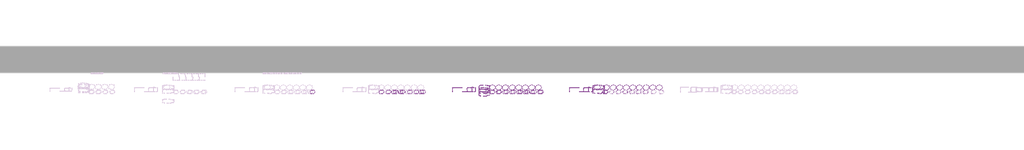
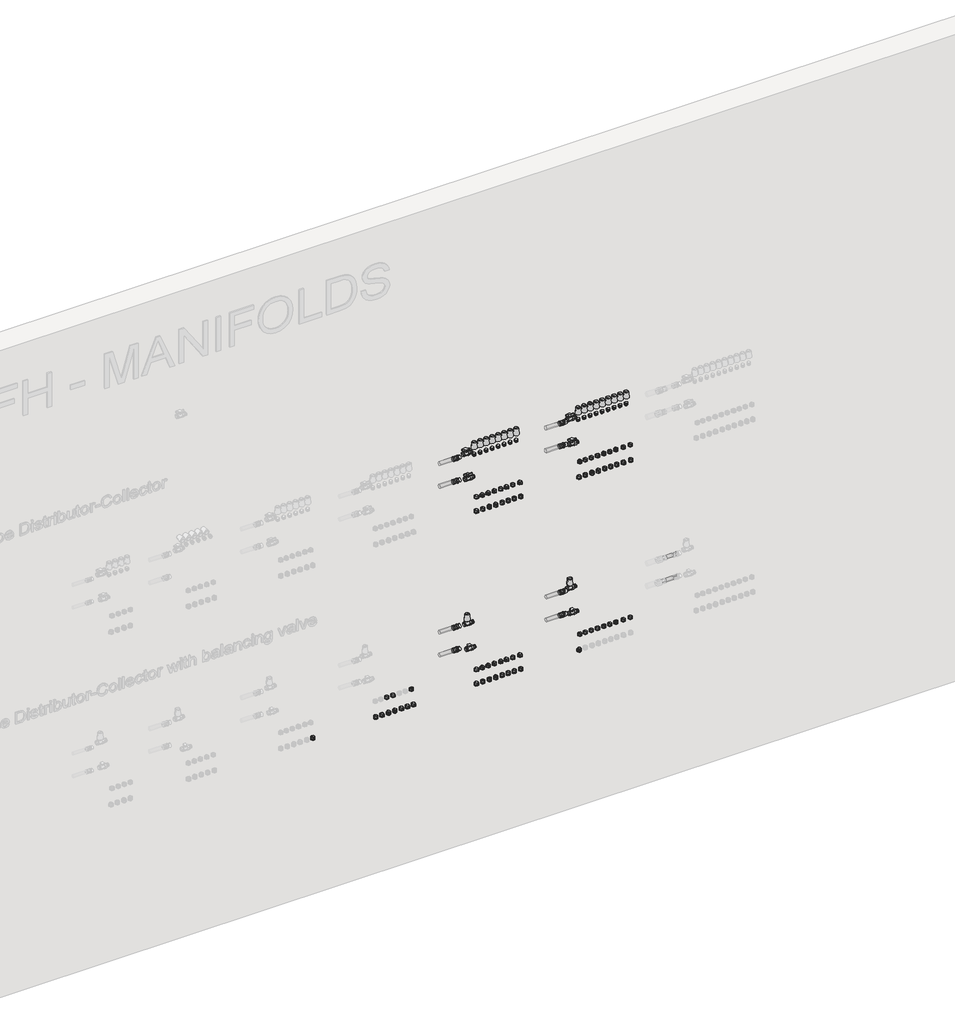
# One storey, part 3 of 26: 79 pipe fittings, 27 valves, 10 pipe segments.
"""IFC4 building model written with IfcOpenShell, lengths in millimetres."""

from ifc_helpers import new_model, si_unit, point, frame, frame_2d, origin, place, context, project, spatial, circle_curve, trimmed, segment, composite_curve, outline, extrude, transform, mapped, element, save
from components import pipe_fitting_a4cde8ab, pipe_fitting_d8af90f1, press_connection_with_male_thread_667abdb5, valve_0291d072, valve_f4025eb8, valve_fccc3399, valve_a3a22d59

model = new_model("IFC4")

# Units and contexts
model_context = context("Model", 3, world=origin())
ifc_project = project(units=[si_unit("LENGTHUNIT", "METRE", prefix="MILLI")], contexts=[model_context])

# Site, building, storey
site = spatial("IfcSite", under=ifc_project)
building = spatial("IfcBuilding", under=site)
storey = spatial("IfcBuildingStorey", under=building, Name="Superpipe UFH", Elevation=0.0)

# Pipe fittings
placement = place(None, origin())
pipe_fitting_shape = pipe_fitting_a4cde8ab(model_context)
element("IfcPipeFitting", 1, ObjectType="Compression Adapter 3/4\"FT : Superpipe Compression Adapter", at=placement, inside=storey, context=model_context, shape_type="MappedRepresentation", body=[
    mapped(pipe_fitting_shape, transform((5379.3069129, -1357.1498396, 3023.4111955), x_axis=(0.0, 0.0, -1.0), y_axis=(0.0, 1.0, 0.0), z_axis=(1.0, 0.0, 0.0))),
])
element("IfcPipeFitting", 2, ObjectType="Compression Adapter 3/4\"FT : Superpipe Compression Adapter", at=placement, inside=storey, context=model_context, shape_type="MappedRepresentation", body=[
    mapped(pipe_fitting_shape, transform((5431.9213282, -1357.1498396, 3023.4111955), x_axis=(0.0, 0.0, -1.0), y_axis=(0.0, 1.0, 0.0), z_axis=(1.0, 0.0, 0.0))),
])
element("IfcPipeFitting", 3, ObjectType="Compression Adapter 3/4\"FT : Superpipe Compression Adapter", at=placement, inside=storey, context=model_context, shape_type="MappedRepresentation", body=[
    mapped(pipe_fitting_shape, transform((5486.9213282, -1357.1498396, 3023.4111955), x_axis=(0.0, 0.0, -1.0), y_axis=(0.0, 1.0, 0.0), z_axis=(1.0, 0.0, 0.0))),
])
element("IfcPipeFitting", 4, ObjectType="Compression Adapter 3/4\"FT : Superpipe Compression Adapter", at=placement, inside=storey, context=model_context, shape_type="MappedRepresentation", body=[
    mapped(pipe_fitting_shape, transform((5539.4213282, -1357.1498396, 3023.4111955), x_axis=(0.0, 0.0, -1.0), y_axis=(0.0, 1.0, 0.0), z_axis=(1.0, 0.0, 0.0))),
])
element("IfcPipeFitting", 5, ObjectType="Compression Adapter 3/4\"FT : Superpipe Compression Adapter", at=placement, inside=storey, context=model_context, shape_type="MappedRepresentation", body=[
    mapped(pipe_fitting_shape, transform((5594.4213282, -1357.1498396, 3023.4111955), x_axis=(0.0, 0.0, -1.0), y_axis=(0.0, 1.0, 0.0), z_axis=(1.0, 0.0, 0.0))),
])
element("IfcPipeFitting", 6, ObjectType="Compression Adapter 3/4\"FT : Superpipe Compression Adapter", at=placement, inside=storey, context=model_context, shape_type="MappedRepresentation", body=[
    mapped(pipe_fitting_shape, transform((5644.4213282, -1357.1498396, 3023.4111955), x_axis=(0.0, 0.0, -1.0), y_axis=(0.0, 1.0, 0.0), z_axis=(1.0, 0.0, 0.0))),
])
element("IfcPipeFitting", 7, ObjectType="Compression Adapter 3/4\"FT : Superpipe Compression Adapter", at=placement, inside=storey, context=model_context, shape_type="MappedRepresentation", body=[
    mapped(pipe_fitting_shape, transform((5694.4213282, -1357.1498396, 3023.4111955), x_axis=(0.0, 0.0, -1.0), y_axis=(0.0, 1.0, 0.0), z_axis=(1.0, 0.0, 0.0))),
])
element("IfcPipeFitting", 8, ObjectType="Compression Adapter 3/4\"FT : Superpipe Compression Adapter", at=placement, inside=storey, context=model_context, shape_type="MappedRepresentation", body=[
    mapped(pipe_fitting_shape, transform((5749.1930101, -1357.1498396, 3023.1818509), x_axis=(0.0, 0.0, -1.0), y_axis=(0.0, 1.0, 0.0), z_axis=(1.0, 0.0, 0.0))),
])
element("IfcPipeFitting", 9, ObjectType="Compression Adapter 3/4\"FT : Superpipe Compression Adapter", at=placement, inside=storey, context=model_context, shape_type="MappedRepresentation", body=[
    mapped(pipe_fitting_shape, transform((6234.3069129, -1357.1498396, 3023.4111955), x_axis=(0.0, 0.0, -1.0), y_axis=(0.0, 1.0, 0.0), z_axis=(1.0, 0.0, 0.0))),
])
element("IfcPipeFitting", 10, ObjectType="Compression Adapter 3/4\"FT : Superpipe Compression Adapter", at=placement, inside=storey, context=model_context, shape_type="MappedRepresentation", body=[
    mapped(pipe_fitting_shape, transform((6286.9213282, -1357.1498396, 3023.4111955), x_axis=(0.0, 0.0, -1.0), y_axis=(0.0, 1.0, 0.0), z_axis=(1.0, 0.0, 0.0))),
])
element("IfcPipeFitting", 11, ObjectType="Compression Adapter 3/4\"FT : Superpipe Compression Adapter", at=placement, inside=storey, context=model_context, shape_type="MappedRepresentation", body=[
    mapped(pipe_fitting_shape, transform((6341.9213282, -1357.1498396, 3023.4111955), x_axis=(0.0, 0.0, -1.0), y_axis=(0.0, 1.0, 0.0), z_axis=(1.0, 0.0, 0.0))),
])
element("IfcPipeFitting", 12, ObjectType="Compression Adapter 3/4\"FT : Superpipe Compression Adapter", at=placement, inside=storey, context=model_context, shape_type="MappedRepresentation", body=[
    mapped(pipe_fitting_shape, transform((6394.4213282, -1357.1498396, 3023.4111955), x_axis=(0.0, 0.0, -1.0), y_axis=(0.0, 1.0, 0.0), z_axis=(1.0, 0.0, 0.0))),
])
element("IfcPipeFitting", 13, ObjectType="Compression Adapter 3/4\"FT : Superpipe Compression Adapter", at=placement, inside=storey, context=model_context, shape_type="MappedRepresentation", body=[
    mapped(pipe_fitting_shape, transform((6449.4213282, -1357.1498396, 3023.4111955), x_axis=(0.0, 0.0, -1.0), y_axis=(0.0, 1.0, 0.0), z_axis=(1.0, 0.0, 0.0))),
])
element("IfcPipeFitting", 14, ObjectType="Compression Adapter 3/4\"FT : Superpipe Compression Adapter", at=placement, inside=storey, context=model_context, shape_type="MappedRepresentation", body=[
    mapped(pipe_fitting_shape, transform((6499.4213282, -1357.1498396, 3023.4111955), x_axis=(0.0, 0.0, -1.0), y_axis=(0.0, 1.0, 0.0), z_axis=(1.0, 0.0, 0.0))),
])
element("IfcPipeFitting", 15, ObjectType="Compression Adapter 3/4\"FT : Superpipe Compression Adapter", at=placement, inside=storey, context=model_context, shape_type="MappedRepresentation", body=[
    mapped(pipe_fitting_shape, transform((6549.4213282, -1357.1498396, 3023.4111955), x_axis=(0.0, 0.0, -1.0), y_axis=(0.0, 1.0, 0.0), z_axis=(1.0, 0.0, 0.0))),
])
element("IfcPipeFitting", 16, ObjectType="Compression Adapter 3/4\"FT : Superpipe Compression Adapter", at=placement, inside=storey, context=model_context, shape_type="MappedRepresentation", body=[
    mapped(pipe_fitting_shape, transform((6604.1930101, -1357.1498396, 3023.1818509), x_axis=(0.0, 0.0, -1.0), y_axis=(0.0, 1.0, 0.0), z_axis=(1.0, 0.0, 0.0))),
])
element("IfcPipeFitting", 17, ObjectType="Compression Adapter 3/4\"FT : Superpipe Compression Adapter", at=placement, inside=storey, context=model_context, shape_type="MappedRepresentation", body=[
    mapped(pipe_fitting_shape, transform((6664.1930101, -1357.1498396, 3023.1818509), x_axis=(0.0, 0.0, -1.0), y_axis=(0.0, 1.0, 0.0), z_axis=(1.0, 0.0, 0.0))),
])
element("IfcPipeFitting", 18, ObjectType="Compression Adapter 3/4\"FT : Superpipe Compression Adapter", at=placement, inside=storey, context=model_context, shape_type="MappedRepresentation", body=[
    mapped(pipe_fitting_shape, transform((4014.4213282, -1357.1498396, 1503.4111955), x_axis=(0.0, 0.0, -1.0), y_axis=(0.0, 1.0, 0.0), z_axis=(1.0, 0.0, 0.0))),
])
element("IfcPipeFitting", 19, ObjectType="Compression Adapter 3/4\"FT : Superpipe Compression Adapter", at=placement, inside=storey, context=model_context, shape_type="MappedRepresentation", body=[
    mapped(pipe_fitting_shape, transform((4539.3069129, -1357.1498396, 1503.4111955), x_axis=(0.0, 0.0, -1.0), y_axis=(0.0, 1.0, 0.0), z_axis=(1.0, 0.0, 0.0))),
])
element("IfcPipeFitting", 20, ObjectType="Compression Adapter 3/4\"FT : Superpipe Compression Adapter", at=placement, inside=storey, context=model_context, shape_type="MappedRepresentation", body=[
    mapped(pipe_fitting_shape, transform((4591.9213282, -1357.1498396, 1503.4111955), x_axis=(0.0, 0.0, -1.0), y_axis=(0.0, 1.0, 0.0), z_axis=(1.0, 0.0, 0.0))),
])
element("IfcPipeFitting", 21, ObjectType="Compression Adapter 3/4\"FT : Superpipe Compression Adapter", at=placement, inside=storey, context=model_context, shape_type="MappedRepresentation", body=[
    mapped(pipe_fitting_shape, transform((4646.9213282, -1357.1498396, 1503.4111955), x_axis=(0.0, 0.0, -1.0), y_axis=(0.0, 1.0, 0.0), z_axis=(1.0, 0.0, 0.0))),
])
element("IfcPipeFitting", 22, ObjectType="Compression Adapter 3/4\"FT : Superpipe Compression Adapter", at=placement, inside=storey, context=model_context, shape_type="MappedRepresentation", body=[
    mapped(pipe_fitting_shape, transform((4699.4213282, -1357.1498396, 1503.4111955), x_axis=(0.0, 0.0, -1.0), y_axis=(0.0, 1.0, 0.0), z_axis=(1.0, 0.0, 0.0))),
])
element("IfcPipeFitting", 23, ObjectType="Compression Adapter 3/4\"FT : Superpipe Compression Adapter", at=placement, inside=storey, context=model_context, shape_type="MappedRepresentation", body=[
    mapped(pipe_fitting_shape, transform((4754.4213282, -1357.1498396, 1503.4111955), x_axis=(0.0, 0.0, -1.0), y_axis=(0.0, 1.0, 0.0), z_axis=(1.0, 0.0, 0.0))),
])
element("IfcPipeFitting", 24, ObjectType="Compression Adapter 3/4\"FT : Superpipe Compression Adapter", at=placement, inside=storey, context=model_context, shape_type="MappedRepresentation", body=[
    mapped(pipe_fitting_shape, transform((4804.4213282, -1357.1498396, 1503.4111955), x_axis=(0.0, 0.0, -1.0), y_axis=(0.0, 1.0, 0.0), z_axis=(1.0, 0.0, 0.0))),
])
element("IfcPipeFitting", 25, ObjectType="Compression Adapter 3/4\"FT : Superpipe Compression Adapter", at=placement, inside=storey, context=model_context, shape_type="MappedRepresentation", body=[
    mapped(pipe_fitting_shape, transform((4854.4213282, -1357.1498396, 1503.4111955), x_axis=(0.0, 0.0, -1.0), y_axis=(0.0, 1.0, 0.0), z_axis=(1.0, 0.0, 0.0))),
])
element("IfcPipeFitting", 26, ObjectType="Compression Adapter 3/4\"FT : Superpipe Compression Adapter", at=placement, inside=storey, context=model_context, shape_type="MappedRepresentation", body=[
    mapped(pipe_fitting_shape, transform((5379.3069129, -1357.1498396, 1503.4111955), x_axis=(0.0, 0.0, -1.0), y_axis=(0.0, 1.0, 0.0), z_axis=(1.0, 0.0, 0.0))),
])
element("IfcPipeFitting", 27, ObjectType="Compression Adapter 3/4\"FT : Superpipe Compression Adapter", at=placement, inside=storey, context=model_context, shape_type="MappedRepresentation", body=[
    mapped(pipe_fitting_shape, transform((5431.9213282, -1357.1498396, 1503.4111955), x_axis=(0.0, 0.0, -1.0), y_axis=(0.0, 1.0, 0.0), z_axis=(1.0, 0.0, 0.0))),
])
element("IfcPipeFitting", 28, ObjectType="Compression Adapter 3/4\"FT : Superpipe Compression Adapter", at=placement, inside=storey, context=model_context, shape_type="MappedRepresentation", body=[
    mapped(pipe_fitting_shape, transform((5486.9213282, -1357.1498396, 1503.4111955), x_axis=(0.0, 0.0, -1.0), y_axis=(0.0, 1.0, 0.0), z_axis=(1.0, 0.0, 0.0))),
])
element("IfcPipeFitting", 29, ObjectType="Compression Adapter 3/4\"FT : Superpipe Compression Adapter", at=placement, inside=storey, context=model_context, shape_type="MappedRepresentation", body=[
    mapped(pipe_fitting_shape, transform((5539.4213282, -1357.1498396, 1503.4111955), x_axis=(0.0, 0.0, -1.0), y_axis=(0.0, 1.0, 0.0), z_axis=(1.0, 0.0, 0.0))),
])
element("IfcPipeFitting", 30, ObjectType="Compression Adapter 3/4\"FT : Superpipe Compression Adapter", at=placement, inside=storey, context=model_context, shape_type="MappedRepresentation", body=[
    mapped(pipe_fitting_shape, transform((5594.4213282, -1357.1498396, 1503.4111955), x_axis=(0.0, 0.0, -1.0), y_axis=(0.0, 1.0, 0.0), z_axis=(1.0, 0.0, 0.0))),
])
element("IfcPipeFitting", 31, ObjectType="Compression Adapter 3/4\"FT : Superpipe Compression Adapter", at=placement, inside=storey, context=model_context, shape_type="MappedRepresentation", body=[
    mapped(pipe_fitting_shape, transform((5644.4213282, -1357.1498396, 1503.4111955), x_axis=(0.0, 0.0, -1.0), y_axis=(0.0, 1.0, 0.0), z_axis=(1.0, 0.0, 0.0))),
])
element("IfcPipeFitting", 32, ObjectType="Compression Adapter 3/4\"FT : Superpipe Compression Adapter", at=placement, inside=storey, context=model_context, shape_type="MappedRepresentation", body=[
    mapped(pipe_fitting_shape, transform((5694.4213282, -1357.1498396, 1503.4111955), x_axis=(0.0, 0.0, -1.0), y_axis=(0.0, 1.0, 0.0), z_axis=(1.0, 0.0, 0.0))),
])
element("IfcPipeFitting", 33, ObjectType="Compression Adapter 3/4\"FT : Superpipe Compression Adapter", at=placement, inside=storey, context=model_context, shape_type="MappedRepresentation", body=[
    mapped(pipe_fitting_shape, transform((5749.1930101, -1357.1498396, 1503.1818509), x_axis=(0.0, 0.0, -1.0), y_axis=(0.0, 1.0, 0.0), z_axis=(1.0, 0.0, 0.0))),
])
element("IfcPipeFitting", 34, ObjectType="Compression Adapter 3/4\"FT : Superpipe Compression Adapter", at=placement, inside=storey, context=model_context, shape_type="MappedRepresentation", body=[
    mapped(pipe_fitting_shape, transform((6234.3069129, -1357.1498396, 1503.4111955), x_axis=(0.0, 0.0, -1.0), y_axis=(0.0, 1.0, 0.0), z_axis=(1.0, 0.0, 0.0))),
])
pipe_fitting_2_shape = pipe_fitting_d8af90f1(model_context)
element("IfcPipeFitting", 35, ObjectType="Compression Adapter Euro : Superpipe Compression Adapter Euro", at=placement, inside=storey, context=model_context, shape_type="MappedRepresentation", body=[
    mapped(pipe_fitting_2_shape, transform((5629.2714485, -1357.1498396, 3146.6377388), x_axis=(0.0, 0.0, -1.0000000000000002), y_axis=(0.0, 1.0000000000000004, 0.0), z_axis=(1.0000000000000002, 0.0, 0.0))),
])
element("IfcPipeFitting", 36, ObjectType="Compression Adapter Euro : Superpipe Compression Adapter Euro", at=placement, inside=storey, context=model_context, shape_type="MappedRepresentation", body=[
    mapped(pipe_fitting_2_shape, transform((5580.5214485, -1357.1498396, 3146.6377388), x_axis=(0.0, 0.0, -1.0000000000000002), y_axis=(0.0, 1.0000000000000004, 0.0), z_axis=(1.0000000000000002, 0.0, 0.0))),
])
element("IfcPipeFitting", 37, ObjectType="Compression Adapter Euro : Superpipe Compression Adapter Euro", at=placement, inside=storey, context=model_context, shape_type="MappedRepresentation", body=[
    mapped(pipe_fitting_2_shape, transform((5379.7746458, -1357.1498396, 3146.6377388), x_axis=(0.0, 0.0, -1.0000000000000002), y_axis=(0.0, 1.0000000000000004, 0.0), z_axis=(1.0000000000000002, 0.0, 0.0))),
])
element("IfcPipeFitting", 38, ObjectType="Compression Adapter Euro : Superpipe Compression Adapter Euro", at=placement, inside=storey, context=model_context, shape_type="MappedRepresentation", body=[
    mapped(pipe_fitting_2_shape, transform((5426.0246458, -1357.1498396, 3146.6377388), x_axis=(0.0, 0.0, -1.0000000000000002), y_axis=(0.0, 1.0000000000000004, 0.0), z_axis=(1.0000000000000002, 0.0, 0.0))),
])
element("IfcPipeFitting", 39, ObjectType="Compression Adapter Euro : Superpipe Compression Adapter Euro", at=placement, inside=storey, context=model_context, shape_type="MappedRepresentation", body=[
    mapped(pipe_fitting_2_shape, transform((5476.0246458, -1357.1498396, 3146.6377388), x_axis=(0.0, 0.0, -1.0000000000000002), y_axis=(0.0, 1.0000000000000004, 0.0), z_axis=(1.0000000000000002, 0.0, 0.0))),
])
element("IfcPipeFitting", 40, ObjectType="Compression Adapter Euro : Superpipe Compression Adapter Euro", at=placement, inside=storey, context=model_context, shape_type="MappedRepresentation", body=[
    mapped(pipe_fitting_2_shape, transform((5528.2773011, -1357.1498396, 3146.6377388), x_axis=(0.0, 0.0, -1.0000000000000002), y_axis=(0.0, 1.0000000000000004, 0.0), z_axis=(1.0000000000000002, 0.0, 0.0))),
])
element("IfcPipeFitting", 41, ObjectType="Compression Adapter Euro : Superpipe Compression Adapter Euro", at=placement, inside=storey, context=model_context, shape_type="MappedRepresentation", body=[
    mapped(pipe_fitting_2_shape, transform((5681.7714485, -1357.1498396, 3146.6377388), x_axis=(0.0, 0.0, -1.0000000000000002), y_axis=(0.0, 1.0000000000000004, 0.0), z_axis=(1.0000000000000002, 0.0, 0.0))),
])
element("IfcPipeFitting", 42, ObjectType="Compression Adapter Euro : Superpipe Compression Adapter Euro", at=placement, inside=storey, context=model_context, shape_type="MappedRepresentation", body=[
    mapped(pipe_fitting_2_shape, transform((5741.7714485, -1357.1498396, 3146.6377388), x_axis=(0.0, 0.0, -1.0000000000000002), y_axis=(0.0, 1.0000000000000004, 0.0), z_axis=(1.0000000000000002, 0.0, 0.0))),
])
element("IfcPipeFitting", 43, ObjectType="Compression Adapter Euro : Superpipe Compression Adapter Euro", at=placement, inside=storey, context=model_context, shape_type="MappedRepresentation", body=[
    mapped(pipe_fitting_2_shape, transform((6488.7475597, -1357.1498396, 3156.651306), x_axis=(0.0, 0.0, -1.0000000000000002), y_axis=(0.0, 1.0000000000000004, 0.0), z_axis=(1.0000000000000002, 0.0, 0.0))),
])
element("IfcPipeFitting", 44, ObjectType="Compression Adapter Euro : Superpipe Compression Adapter Euro", at=placement, inside=storey, context=model_context, shape_type="MappedRepresentation", body=[
    mapped(pipe_fitting_2_shape, transform((6439.9975597, -1357.1498396, 3156.651306), x_axis=(0.0, 0.0, -1.0000000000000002), y_axis=(0.0, 1.0000000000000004, 0.0), z_axis=(1.0000000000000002, 0.0, 0.0))),
])
element("IfcPipeFitting", 45, ObjectType="Compression Adapter Euro : Superpipe Compression Adapter Euro", at=placement, inside=storey, context=model_context, shape_type="MappedRepresentation", body=[
    mapped(pipe_fitting_2_shape, transform((6239.250757, -1357.1498396, 3156.651306), x_axis=(0.0, 0.0, -1.0000000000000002), y_axis=(0.0, 1.0000000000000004, 0.0), z_axis=(1.0000000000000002, 0.0, 0.0))),
])
element("IfcPipeFitting", 46, ObjectType="Compression Adapter Euro : Superpipe Compression Adapter Euro", at=placement, inside=storey, context=model_context, shape_type="MappedRepresentation", body=[
    mapped(pipe_fitting_2_shape, transform((6285.500757, -1357.1498396, 3156.651306), x_axis=(0.0, 0.0, -1.0000000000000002), y_axis=(0.0, 1.0000000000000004, 0.0), z_axis=(1.0000000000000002, 0.0, 0.0))),
])
element("IfcPipeFitting", 47, ObjectType="Compression Adapter Euro : Superpipe Compression Adapter Euro", at=placement, inside=storey, context=model_context, shape_type="MappedRepresentation", body=[
    mapped(pipe_fitting_2_shape, transform((6335.500757, -1357.1498396, 3156.651306), x_axis=(0.0, 0.0, -1.0000000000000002), y_axis=(0.0, 1.0000000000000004, 0.0), z_axis=(1.0000000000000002, 0.0, 0.0))),
])
element("IfcPipeFitting", 48, ObjectType="Compression Adapter Euro : Superpipe Compression Adapter Euro", at=placement, inside=storey, context=model_context, shape_type="MappedRepresentation", body=[
    mapped(pipe_fitting_2_shape, transform((6387.7534124, -1357.1498396, 3156.651306), x_axis=(0.0, 0.0, -1.0000000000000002), y_axis=(0.0, 1.0000000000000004, 0.0), z_axis=(1.0000000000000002, 0.0, 0.0))),
])
element("IfcPipeFitting", 49, ObjectType="Compression Adapter Euro : Superpipe Compression Adapter Euro", at=placement, inside=storey, context=model_context, shape_type="MappedRepresentation", body=[
    mapped(pipe_fitting_2_shape, transform((6541.2475597, -1357.1498396, 3156.651306), x_axis=(0.0, 0.0, -1.0000000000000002), y_axis=(0.0, 1.0000000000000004, 0.0), z_axis=(1.0000000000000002, 0.0, 0.0))),
])
element("IfcPipeFitting", 50, ObjectType="Compression Adapter Euro : Superpipe Compression Adapter Euro", at=placement, inside=storey, context=model_context, shape_type="MappedRepresentation", body=[
    mapped(pipe_fitting_2_shape, transform((6601.2475597, -1357.1498396, 3156.651306), x_axis=(0.0, 0.0, -1.0000000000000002), y_axis=(0.0, 1.0000000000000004, 0.0), z_axis=(1.0000000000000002, 0.0, 0.0))),
])
element("IfcPipeFitting", 51, ObjectType="Compression Adapter Euro : Superpipe Compression Adapter Euro", at=placement, inside=storey, context=model_context, shape_type="MappedRepresentation", body=[
    mapped(pipe_fitting_2_shape, transform((6661.2475597, -1357.1498396, 3156.651306), x_axis=(0.0, 0.0, -1.0000000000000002), y_axis=(0.0, 1.0000000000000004, 0.0), z_axis=(1.0000000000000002, 0.0, 0.0))),
])
element("IfcPipeFitting", 52, ObjectType="Compression Adapter Euro : Superpipe Compression Adapter Euro", at=placement, inside=storey, context=model_context, shape_type="MappedRepresentation", body=[
    mapped(pipe_fitting_2_shape, transform((4631.5357584, -1357.1498396, 1642.7554532), x_axis=(0.0, 0.0, -1.0000000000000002), y_axis=(0.0, 1.0000000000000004, 0.0), z_axis=(1.0000000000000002, 0.0, 0.0))),
])
element("IfcPipeFitting", 53, ObjectType="Compression Adapter Euro : Superpipe Compression Adapter Euro", at=placement, inside=storey, context=model_context, shape_type="MappedRepresentation", body=[
    mapped(pipe_fitting_2_shape, transform((4683.7884138, -1357.1498396, 1642.7554532), x_axis=(0.0, 0.0, -1.0000000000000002), y_axis=(0.0, 1.0000000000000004, 0.0), z_axis=(1.0000000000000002, 0.0, 0.0))),
])
element("IfcPipeFitting", 54, ObjectType="Compression Adapter Euro : Superpipe Compression Adapter Euro", at=placement, inside=storey, context=model_context, shape_type="MappedRepresentation", body=[
    mapped(pipe_fitting_2_shape, transform((4837.2825611, -1357.1498396, 1642.7554532), x_axis=(0.0, 0.0, -1.0000000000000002), y_axis=(0.0, 1.0000000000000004, 0.0), z_axis=(1.0000000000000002, 0.0, 0.0))),
])
element("IfcPipeFitting", 55, ObjectType="Compression Adapter Euro : Superpipe Compression Adapter Euro", at=placement, inside=storey, context=model_context, shape_type="MappedRepresentation", body=[
    mapped(pipe_fitting_2_shape, transform((5629.2714485, -1357.1498396, 1626.6377388), x_axis=(0.0, 0.0, -1.0000000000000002), y_axis=(0.0, 1.0000000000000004, 0.0), z_axis=(1.0000000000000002, 0.0, 0.0))),
])
element("IfcPipeFitting", 56, ObjectType="Compression Adapter Euro : Superpipe Compression Adapter Euro", at=placement, inside=storey, context=model_context, shape_type="MappedRepresentation", body=[
    mapped(pipe_fitting_2_shape, transform((5580.5214485, -1357.1498396, 1626.6377388), x_axis=(0.0, 0.0, -1.0000000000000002), y_axis=(0.0, 1.0000000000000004, 0.0), z_axis=(1.0000000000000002, 0.0, 0.0))),
])
element("IfcPipeFitting", 57, ObjectType="Compression Adapter Euro : Superpipe Compression Adapter Euro", at=placement, inside=storey, context=model_context, shape_type="MappedRepresentation", body=[
    mapped(pipe_fitting_2_shape, transform((5379.7746458, -1357.1498396, 1626.6377388), x_axis=(0.0, 0.0, -1.0000000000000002), y_axis=(0.0, 1.0000000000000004, 0.0), z_axis=(1.0000000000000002, 0.0, 0.0))),
])
element("IfcPipeFitting", 58, ObjectType="Compression Adapter Euro : Superpipe Compression Adapter Euro", at=placement, inside=storey, context=model_context, shape_type="MappedRepresentation", body=[
    mapped(pipe_fitting_2_shape, transform((5426.0246458, -1357.1498396, 1626.6377388), x_axis=(0.0, 0.0, -1.0000000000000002), y_axis=(0.0, 1.0000000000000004, 0.0), z_axis=(1.0000000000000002, 0.0, 0.0))),
])
element("IfcPipeFitting", 59, ObjectType="Compression Adapter Euro : Superpipe Compression Adapter Euro", at=placement, inside=storey, context=model_context, shape_type="MappedRepresentation", body=[
    mapped(pipe_fitting_2_shape, transform((5476.0246458, -1357.1498396, 1626.6377388), x_axis=(0.0, 0.0, -1.0000000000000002), y_axis=(0.0, 1.0000000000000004, 0.0), z_axis=(1.0000000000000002, 0.0, 0.0))),
])
element("IfcPipeFitting", 60, ObjectType="Compression Adapter Euro : Superpipe Compression Adapter Euro", at=placement, inside=storey, context=model_context, shape_type="MappedRepresentation", body=[
    mapped(pipe_fitting_2_shape, transform((5528.2773011, -1357.1498396, 1626.6377388), x_axis=(0.0, 0.0, -1.0000000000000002), y_axis=(0.0, 1.0000000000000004, 0.0), z_axis=(1.0000000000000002, 0.0, 0.0))),
])
element("IfcPipeFitting", 61, ObjectType="Compression Adapter Euro : Superpipe Compression Adapter Euro", at=placement, inside=storey, context=model_context, shape_type="MappedRepresentation", body=[
    mapped(pipe_fitting_2_shape, transform((5681.7714485, -1357.1498396, 1626.6377388), x_axis=(0.0, 0.0, -1.0000000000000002), y_axis=(0.0, 1.0000000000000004, 0.0), z_axis=(1.0000000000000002, 0.0, 0.0))),
])
element("IfcPipeFitting", 62, ObjectType="Compression Adapter Euro : Superpipe Compression Adapter Euro", at=placement, inside=storey, context=model_context, shape_type="MappedRepresentation", body=[
    mapped(pipe_fitting_2_shape, transform((5741.7714485, -1357.1498396, 1626.6377388), x_axis=(0.0, 0.0, -1.0000000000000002), y_axis=(0.0, 1.0000000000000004, 0.0), z_axis=(1.0000000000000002, 0.0, 0.0))),
])
element("IfcPipeFitting", 63, ObjectType="Compression Adapter Euro : Superpipe Compression Adapter Euro", at=placement, inside=storey, context=model_context, shape_type="MappedRepresentation", body=[
    mapped(pipe_fitting_2_shape, transform((6488.7475597, -1357.1498396, 1636.651306), x_axis=(0.0, 0.0, -1.0000000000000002), y_axis=(0.0, 1.0000000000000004, 0.0), z_axis=(1.0000000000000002, 0.0, 0.0))),
])
element("IfcPipeFitting", 64, ObjectType="Compression Adapter Euro : Superpipe Compression Adapter Euro", at=placement, inside=storey, context=model_context, shape_type="MappedRepresentation", body=[
    mapped(pipe_fitting_2_shape, transform((6439.9975597, -1357.1498396, 1636.651306), x_axis=(0.0, 0.0, -1.0000000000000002), y_axis=(0.0, 1.0000000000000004, 0.0), z_axis=(1.0000000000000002, 0.0, 0.0))),
])
element("IfcPipeFitting", 65, ObjectType="Compression Adapter Euro : Superpipe Compression Adapter Euro", at=placement, inside=storey, context=model_context, shape_type="MappedRepresentation", body=[
    mapped(pipe_fitting_2_shape, transform((6239.250757, -1357.1498396, 1636.651306), x_axis=(0.0, 0.0, -1.0000000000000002), y_axis=(0.0, 1.0000000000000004, 0.0), z_axis=(1.0000000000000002, 0.0, 0.0))),
])
element("IfcPipeFitting", 66, ObjectType="Compression Adapter Euro : Superpipe Compression Adapter Euro", at=placement, inside=storey, context=model_context, shape_type="MappedRepresentation", body=[
    mapped(pipe_fitting_2_shape, transform((6285.500757, -1357.1498396, 1636.651306), x_axis=(0.0, 0.0, -1.0000000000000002), y_axis=(0.0, 1.0000000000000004, 0.0), z_axis=(1.0000000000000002, 0.0, 0.0))),
])
element("IfcPipeFitting", 67, ObjectType="Compression Adapter Euro : Superpipe Compression Adapter Euro", at=placement, inside=storey, context=model_context, shape_type="MappedRepresentation", body=[
    mapped(pipe_fitting_2_shape, transform((6335.500757, -1357.1498396, 1636.651306), x_axis=(0.0, 0.0, -1.0000000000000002), y_axis=(0.0, 1.0000000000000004, 0.0), z_axis=(1.0000000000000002, 0.0, 0.0))),
])
element("IfcPipeFitting", 68, ObjectType="Compression Adapter Euro : Superpipe Compression Adapter Euro", at=placement, inside=storey, context=model_context, shape_type="MappedRepresentation", body=[
    mapped(pipe_fitting_2_shape, transform((6387.7534124, -1357.1498396, 1636.651306), x_axis=(0.0, 0.0, -1.0000000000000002), y_axis=(0.0, 1.0000000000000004, 0.0), z_axis=(1.0000000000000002, 0.0, 0.0))),
])
element("IfcPipeFitting", 69, ObjectType="Compression Adapter Euro : Superpipe Compression Adapter Euro", at=placement, inside=storey, context=model_context, shape_type="MappedRepresentation", body=[
    mapped(pipe_fitting_2_shape, transform((6541.2475597, -1357.1498396, 1636.651306), x_axis=(0.0, 0.0, -1.0000000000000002), y_axis=(0.0, 1.0000000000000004, 0.0), z_axis=(1.0000000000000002, 0.0, 0.0))),
])
element("IfcPipeFitting", 70, ObjectType="Compression Adapter Euro : Superpipe Compression Adapter Euro", at=placement, inside=storey, context=model_context, shape_type="MappedRepresentation", body=[
    mapped(pipe_fitting_2_shape, transform((6601.2475597, -1357.1498396, 1636.651306), x_axis=(0.0, 0.0, -1.0000000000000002), y_axis=(0.0, 1.0000000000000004, 0.0), z_axis=(1.0000000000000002, 0.0, 0.0))),
])
element("IfcPipeFitting", 71, ObjectType="Compression Adapter Euro : Superpipe Compression Adapter Euro", at=placement, inside=storey, context=model_context, shape_type="MappedRepresentation", body=[
    mapped(pipe_fitting_2_shape, transform((6661.2475597, -1357.1498396, 1636.651306), x_axis=(0.0, 0.0, -1.0000000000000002), y_axis=(0.0, 1.0000000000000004, 0.0), z_axis=(1.0000000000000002, 0.0, 0.0))),
])
press_connection_with_male_thread_shape = press_connection_with_male_thread_667abdb5(model_context)
element("IfcPipeFitting", 72, ObjectType="Press Connection with Male Thread : Superpipe Press Connection - 32x1\" MT", at=placement, inside=storey, context=model_context, shape_type="MappedRepresentation", body=[
    mapped(press_connection_with_male_thread_shape, transform((5188.6757495, -1341.3459802, 3524.1931874), x_axis=(1.0, 0.0, 0.0), y_axis=(0.0, 1.0, 0.0), z_axis=(0.0, 0.0, 1.0))),
])
element("IfcPipeFitting", 73, ObjectType="Press Connection with Male Thread : Superpipe Press Connection - 32x1\" MT", at=placement, inside=storey, context=model_context, shape_type="MappedRepresentation", body=[
    mapped(press_connection_with_male_thread_shape, transform((5188.6757495, -1341.3459802, 3323.5169288), x_axis=(1.0, 0.0, 0.0), y_axis=(0.0, 1.0, 0.0), z_axis=(0.0, 0.0, 1.0))),
])
element("IfcPipeFitting", 74, ObjectType="Press Connection with Male Thread : Superpipe Press Connection - 32x1\" MT", at=placement, inside=storey, context=model_context, shape_type="MappedRepresentation", body=[
    mapped(press_connection_with_male_thread_shape, transform((5188.6757495, -1341.3459802, 2038.4293979), x_axis=(1.0, 0.0, 0.0), y_axis=(0.0, 1.0, 0.0), z_axis=(0.0, 0.0, 1.0))),
])
element("IfcPipeFitting", 75, ObjectType="Press Connection with Male Thread : Superpipe Press Connection - 32x1\" MT", at=placement, inside=storey, context=model_context, shape_type="MappedRepresentation", body=[
    mapped(press_connection_with_male_thread_shape, transform((5188.6757495, -1341.3459802, 1837.7531393), x_axis=(1.0, 0.0, 0.0), y_axis=(0.0, 1.0, 0.0), z_axis=(0.0, 0.0, 1.0))),
])
element("IfcPipeFitting", 76, ObjectType="Press Connection with Male Thread : Superpipe Press Connection - 32x1\" MT", at=placement, inside=storey, context=model_context, shape_type="MappedRepresentation", body=[
    mapped(press_connection_with_male_thread_shape, transform((6074.0794103, -1341.3459802, 1836.0747953), x_axis=(1.0, 0.0, 0.0), y_axis=(0.0, 1.0, 0.0), z_axis=(0.0, 0.0, 1.0))),
])
element("IfcPipeFitting", 77, ObjectType="Press Connection with Male Thread : Superpipe Press Connection - 32x1\" MT", at=placement, inside=storey, context=model_context, shape_type="MappedRepresentation", body=[
    mapped(press_connection_with_male_thread_shape, transform((6074.0794103, -1341.3459802, 2038.4293979), x_axis=(1.0, 0.0, 0.0), y_axis=(0.0, 1.0, 0.0), z_axis=(0.0, 0.0, 1.0))),
])
element("IfcPipeFitting", 78, ObjectType="Press Connection with Male Thread : Superpipe Press Connection - 32x1\" MT", at=placement, inside=storey, context=model_context, shape_type="MappedRepresentation", body=[
    mapped(press_connection_with_male_thread_shape, transform((6074.0794103, -1341.3459802, 3326.1332777), x_axis=(1.0, 0.0, 0.0), y_axis=(0.0, 1.0, 0.0), z_axis=(0.0, 0.0, 1.0))),
])
element("IfcPipeFitting", 79, ObjectType="Press Connection with Male Thread : Superpipe Press Connection - 32x1\" MT", at=placement, inside=storey, context=model_context, shape_type="MappedRepresentation", body=[
    mapped(press_connection_with_male_thread_shape, transform((6074.0794103, -1341.3459802, 3526.8095364), x_axis=(1.0, 0.0, 0.0), y_axis=(0.0, 1.0, 0.0), z_axis=(0.0, 0.0, 1.0))),
])

# Pipe segments
element("IfcPipeSegment", 80, ObjectType="Superpipe 2+ coil", at=placement, inside=storey, context=model_context, shape_type="SweptSolid", body=[
    extrude(outline(composite_curve([segment(trimmed(circle_curve(frame_2d((-1341.3459802, 3524.1931874)), 16.0), [point((-1325.3459802, 3524.1931874))], [point((-1341.3459802, 3508.1931874))], False, "CARTESIAN"), True, "CONTINUOUS"), segment(trimmed(circle_curve(frame_2d((-1341.3459802, 3524.1931874)), 16.0), [point((-1341.3459802, 3508.1931874))], [point((-1357.3459802, 3524.1931874))], False, "CARTESIAN"), True, "CONTINUOUS"), segment(trimmed(circle_curve(frame_2d((-1341.3459802, 3524.1931874)), 16.0), [point((-1357.3459802, 3524.1931874))], [point((-1341.3459802, 3540.1931874))], False, "CARTESIAN"), True, "CONTINUOUS"), segment(trimmed(circle_curve(frame_2d((-1341.3459802, 3524.1931874)), 16.0), [point((-1341.3459802, 3540.1931874))], [point((-1325.3459802, 3524.1931874))], False, "CARTESIAN"), True, "CONTINUOUS")], self_intersect=False)), frame((5080.4154208, 0.0, 0.0), z_axis=(1.0, 0.0, 0.0), x_axis=(0.0, 1.0, 0.0)), (0.0, 0.0, 1.0), 142.2603287),
])
element("IfcPipeSegment", 81, ObjectType="Superpipe 2+ coil", at=placement, inside=storey, context=model_context, shape_type="SweptSolid", body=[
    extrude(outline(composite_curve([segment(trimmed(circle_curve(frame_2d((-1341.3459802, 3323.5169288)), 16.0), [point((-1325.3459802, 3323.5169288))], [point((-1341.3459802, 3307.5169288))], False, "CARTESIAN"), True, "CONTINUOUS"), segment(trimmed(circle_curve(frame_2d((-1341.3459802, 3323.5169288)), 16.0), [point((-1341.3459802, 3307.5169288))], [point((-1357.3459802, 3323.5169288))], False, "CARTESIAN"), True, "CONTINUOUS"), segment(trimmed(circle_curve(frame_2d((-1341.3459802, 3323.5169288)), 16.0), [point((-1357.3459802, 3323.5169288))], [point((-1341.3459802, 3339.5169288))], False, "CARTESIAN"), True, "CONTINUOUS"), segment(trimmed(circle_curve(frame_2d((-1341.3459802, 3323.5169288)), 16.0), [point((-1341.3459802, 3339.5169288))], [point((-1325.3459802, 3323.5169288))], False, "CARTESIAN"), True, "CONTINUOUS")], self_intersect=False)), frame((5080.4154208, 0.0, 0.0), z_axis=(1.0, 0.0, 0.0), x_axis=(0.0, 1.0, 0.0)), (0.0, 0.0, 1.0), 142.2603287),
])
element("IfcPipeSegment", 82, ObjectType="Superpipe 2+ coil", at=placement, inside=storey, context=model_context, shape_type="SweptSolid", body=[
    extrude(outline(composite_curve([segment(trimmed(circle_curve(frame_2d((-1341.3459802, 2038.4293979)), 16.0), [point((-1325.3459802, 2038.4293979))], [point((-1341.3459802, 2022.4293979))], False, "CARTESIAN"), True, "CONTINUOUS"), segment(trimmed(circle_curve(frame_2d((-1341.3459802, 2038.4293979)), 16.0), [point((-1341.3459802, 2022.4293979))], [point((-1357.3459802, 2038.4293979))], False, "CARTESIAN"), True, "CONTINUOUS"), segment(trimmed(circle_curve(frame_2d((-1341.3459802, 2038.4293979)), 16.0), [point((-1357.3459802, 2038.4293979))], [point((-1341.3459802, 2054.4293979))], False, "CARTESIAN"), True, "CONTINUOUS"), segment(trimmed(circle_curve(frame_2d((-1341.3459802, 2038.4293979)), 16.0), [point((-1341.3459802, 2054.4293979))], [point((-1325.3459802, 2038.4293979))], False, "CARTESIAN"), True, "CONTINUOUS")], self_intersect=False)), frame((5080.4154208, 0.0, 0.0), z_axis=(1.0, 0.0, 0.0), x_axis=(0.0, 1.0, 0.0)), (0.0, 0.0, 1.0), 142.2603287),
])
element("IfcPipeSegment", 83, ObjectType="Superpipe 2+ coil", at=placement, inside=storey, context=model_context, shape_type="SweptSolid", body=[
    extrude(outline(composite_curve([segment(trimmed(circle_curve(frame_2d((-1341.3459802, 1837.7531393)), 16.0), [point((-1325.3459802, 1837.7531393))], [point((-1341.3459802, 1821.7531393))], False, "CARTESIAN"), True, "CONTINUOUS"), segment(trimmed(circle_curve(frame_2d((-1341.3459802, 1837.7531393)), 16.0), [point((-1341.3459802, 1821.7531393))], [point((-1357.3459802, 1837.7531393))], False, "CARTESIAN"), True, "CONTINUOUS"), segment(trimmed(circle_curve(frame_2d((-1341.3459802, 1837.7531393)), 16.0), [point((-1357.3459802, 1837.7531393))], [point((-1341.3459802, 1853.7531393))], False, "CARTESIAN"), True, "CONTINUOUS"), segment(trimmed(circle_curve(frame_2d((-1341.3459802, 1837.7531393)), 16.0), [point((-1341.3459802, 1853.7531393))], [point((-1325.3459802, 1837.7531393))], False, "CARTESIAN"), True, "CONTINUOUS")], self_intersect=False)), frame((5080.4154208, 0.0, 0.0), z_axis=(1.0, 0.0, 0.0), x_axis=(0.0, 1.0, 0.0)), (0.0, 0.0, 1.0), 142.2603287),
])
element("IfcPipeSegment", 84, ObjectType="Superpipe 2+ coil", at=placement, inside=storey, context=model_context, shape_type="SweptSolid", body=[
    extrude(outline(composite_curve([segment(trimmed(circle_curve(frame_2d((-1341.3459802, 1836.0747953)), 16.0), [point((-1325.3459802, 1836.0747953))], [point((-1341.3459802, 1820.0747953))], False, "CARTESIAN"), True, "CONTINUOUS"), segment(trimmed(circle_curve(frame_2d((-1341.3459802, 1836.0747953)), 16.0), [point((-1341.3459802, 1820.0747953))], [point((-1357.3459802, 1836.0747953))], False, "CARTESIAN"), True, "CONTINUOUS"), segment(trimmed(circle_curve(frame_2d((-1341.3459802, 1836.0747953)), 16.0), [point((-1357.3459802, 1836.0747953))], [point((-1341.3459802, 1852.0747953))], False, "CARTESIAN"), True, "CONTINUOUS"), segment(trimmed(circle_curve(frame_2d((-1341.3459802, 1836.0747953)), 16.0), [point((-1341.3459802, 1852.0747953))], [point((-1325.3459802, 1836.0747953))], False, "CARTESIAN"), True, "CONTINUOUS")], self_intersect=False)), frame((5968.2240722, 0.0, 0.0), z_axis=(1.0, 0.0, 0.0), x_axis=(0.0, 1.0, 0.0)), (0.0, 0.0, 1.0), 139.8553382),
])
element("IfcPipeSegment", 85, ObjectType="Superpipe 2+ coil", at=placement, inside=storey, context=model_context, shape_type="SweptSolid", body=[
    extrude(outline(composite_curve([segment(trimmed(circle_curve(frame_2d((-1341.3459802, 2038.4293979)), 16.0), [point((-1325.3459802, 2038.4293979))], [point((-1341.3459802, 2022.4293979))], False, "CARTESIAN"), True, "CONTINUOUS"), segment(trimmed(circle_curve(frame_2d((-1341.3459802, 2038.4293979)), 16.0), [point((-1341.3459802, 2022.4293979))], [point((-1357.3459802, 2038.4293979))], False, "CARTESIAN"), True, "CONTINUOUS"), segment(trimmed(circle_curve(frame_2d((-1341.3459802, 2038.4293979)), 16.0), [point((-1357.3459802, 2038.4293979))], [point((-1341.3459802, 2054.4293979))], False, "CARTESIAN"), True, "CONTINUOUS"), segment(trimmed(circle_curve(frame_2d((-1341.3459802, 2038.4293979)), 16.0), [point((-1341.3459802, 2054.4293979))], [point((-1325.3459802, 2038.4293979))], False, "CARTESIAN"), True, "CONTINUOUS")], self_intersect=False)), frame((5968.2240722, 0.0, 0.0), z_axis=(1.0, 0.0, 0.0), x_axis=(0.0, 1.0, 0.0)), (0.0, 0.0, 1.0), 139.8553382),
])
element("IfcPipeSegment", 86, ObjectType="Superpipe 2+ coil", at=placement, inside=storey, context=model_context, shape_type="SweptSolid", body=[
    extrude(outline(composite_curve([segment(trimmed(circle_curve(frame_2d((-1341.3459802, 3326.1332777)), 16.0), [point((-1325.3459802, 3326.1332777))], [point((-1341.3459802, 3310.1332777))], False, "CARTESIAN"), True, "CONTINUOUS"), segment(trimmed(circle_curve(frame_2d((-1341.3459802, 3326.1332777)), 16.0), [point((-1341.3459802, 3310.1332777))], [point((-1357.3459802, 3326.1332777))], False, "CARTESIAN"), True, "CONTINUOUS"), segment(trimmed(circle_curve(frame_2d((-1341.3459802, 3326.1332777)), 16.0), [point((-1357.3459802, 3326.1332777))], [point((-1341.3459802, 3342.1332777))], False, "CARTESIAN"), True, "CONTINUOUS"), segment(trimmed(circle_curve(frame_2d((-1341.3459802, 3326.1332777)), 16.0), [point((-1341.3459802, 3342.1332777))], [point((-1325.3459802, 3326.1332777))], False, "CARTESIAN"), True, "CONTINUOUS")], self_intersect=False)), frame((5965.8190816, 0.0, 0.0), z_axis=(1.0, 0.0, 0.0), x_axis=(0.0, 1.0, 0.0)), (0.0, 0.0, 1.0), 142.2603287),
])
element("IfcPipeSegment", 87, ObjectType="Superpipe 2+ coil", at=placement, inside=storey, context=model_context, shape_type="SweptSolid", body=[
    extrude(outline(composite_curve([segment(trimmed(circle_curve(frame_2d((-1341.3459802, 3526.8095364)), 16.0), [point((-1325.3459802, 3526.8095364))], [point((-1341.3459802, 3510.8095364))], False, "CARTESIAN"), True, "CONTINUOUS"), segment(trimmed(circle_curve(frame_2d((-1341.3459802, 3526.8095364)), 16.0), [point((-1341.3459802, 3510.8095364))], [point((-1357.3459802, 3526.8095364))], False, "CARTESIAN"), True, "CONTINUOUS"), segment(trimmed(circle_curve(frame_2d((-1341.3459802, 3526.8095364)), 16.0), [point((-1357.3459802, 3526.8095364))], [point((-1341.3459802, 3542.8095364))], False, "CARTESIAN"), True, "CONTINUOUS"), segment(trimmed(circle_curve(frame_2d((-1341.3459802, 3526.8095364)), 16.0), [point((-1341.3459802, 3542.8095364))], [point((-1325.3459802, 3526.8095364))], False, "CARTESIAN"), True, "CONTINUOUS")], self_intersect=False)), frame((5965.8190816, 0.0, 0.0), z_axis=(1.0, 0.0, 0.0), x_axis=(0.0, 1.0, 0.0)), (0.0, 0.0, 1.0), 142.2603287),
])
element("IfcPipeSegment", 88, ObjectType="Superpipe 2+ coil", at=placement, inside=storey, context=model_context, shape_type="SweptSolid", body=[
    extrude(outline(composite_curve([segment(trimmed(circle_curve(frame_2d((0.0, 16.0)), 16.0), [point((-16.0, 16.0))], [point((0.0, 32.0))], False, "CARTESIAN"), True, "CONTINUOUS"), segment(trimmed(circle_curve(frame_2d((0.0, 16.0)), 16.0), [point((0.0, 32.0))], [point((16.0, 16.0))], False, "CARTESIAN"), True, "CONTINUOUS"), segment(trimmed(circle_curve(frame_2d((0.0, 16.0)), 16.0), [point((16.0, 16.0))], [point((0.0, 0.0))], False, "CARTESIAN"), True, "CONTINUOUS"), segment(trimmed(circle_curve(frame_2d((0.0, 16.0)), 16.0), [point((0.0, 0.0))], [point((-16.0, 16.0))], False, "CARTESIAN"), True, "CONTINUOUS")], self_intersect=False)), frame((7055.0162689, -1341.3459802, 2022.4293979), z_axis=(-0.9999999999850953, 5.4598177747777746e-06, 0.0), x_axis=(-5.4598177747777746e-06, -0.9999999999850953, 0.0)), (0.0, 0.0, 1.0), 123.2603287),
])
element("IfcPipeSegment", 89, ObjectType="Superpipe 2+ coil", at=placement, inside=storey, context=model_context, shape_type="SweptSolid", body=[
    extrude(outline(composite_curve([segment(trimmed(circle_curve(frame_2d((0.0, 16.0)), 16.0), [point((-16.0, 16.0))], [point((0.0, 32.0))], False, "CARTESIAN"), True, "CONTINUOUS"), segment(trimmed(circle_curve(frame_2d((0.0, 16.0)), 16.0), [point((0.0, 32.0))], [point((16.0, 16.0))], False, "CARTESIAN"), True, "CONTINUOUS"), segment(trimmed(circle_curve(frame_2d((0.0, 16.0)), 16.0), [point((16.0, 16.0))], [point((0.0, 0.0))], False, "CARTESIAN"), True, "CONTINUOUS"), segment(trimmed(circle_curve(frame_2d((0.0, 16.0)), 16.0), [point((0.0, 0.0))], [point((-16.0, 16.0))], False, "CARTESIAN"), True, "CONTINUOUS")], self_intersect=False)), frame((7059.9601006, -1341.3459802, 1821.7531393), z_axis=(-0.9999999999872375, 5.052236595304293e-06, 0.0), x_axis=(-5.052236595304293e-06, -0.9999999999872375, 0.0)), (0.0, 0.0, 1.0), 133.2041604),
])

# Valves
valve_shape = valve_0291d072(model_context)
element("IfcValve", 90, ObjectType="Superpipe Actuator : Superpipe Actuator", at=placement, inside=storey, context=model_context, shape_type="MappedRepresentation", body=[
    mapped(valve_shape, transform((5729.0980131, -1323.8763047, 3543.5169288), x_axis=(1.0, 0.0, 0.0), y_axis=(0.0, 1.0, 0.0), z_axis=(0.0, 0.0, 1.0))),
])
element("IfcValve", 91, ObjectType="Superpipe Actuator : Superpipe Actuator", at=placement, inside=storey, context=model_context, shape_type="MappedRepresentation", body=[
    mapped(valve_shape, transform((5679.0980131, -1323.8763047, 3543.5169288), x_axis=(1.0, 0.0, 0.0), y_axis=(0.0, 1.0, 0.0), z_axis=(0.0, 0.0, 1.0))),
])
element("IfcValve", 92, ObjectType="Superpipe Actuator : Superpipe Actuator", at=placement, inside=storey, context=model_context, shape_type="MappedRepresentation", body=[
    mapped(valve_shape, transform((5629.0980131, -1323.8763047, 3543.5169288), x_axis=(1.0, 0.0, 0.0), y_axis=(0.0, 1.0, 0.0), z_axis=(0.0, 0.0, 1.0))),
])
element("IfcValve", 93, ObjectType="Superpipe Actuator : Superpipe Actuator", at=placement, inside=storey, context=model_context, shape_type="MappedRepresentation", body=[
    mapped(valve_shape, transform((5579.0980131, -1323.8763047, 3543.5169288), x_axis=(1.0, 0.0, 0.0), y_axis=(0.0, 1.0, 0.0), z_axis=(0.0, 0.0, 1.0))),
])
element("IfcValve", 94, ObjectType="Superpipe Actuator : Superpipe Actuator", at=placement, inside=storey, context=model_context, shape_type="MappedRepresentation", body=[
    mapped(valve_shape, transform((5529.0980131, -1323.8763047, 3543.5169288), x_axis=(1.0, 0.0, 0.0), y_axis=(0.0, 1.0, 0.0), z_axis=(0.0, 0.0, 1.0))),
])
element("IfcValve", 95, ObjectType="Superpipe Actuator : Superpipe Actuator", at=placement, inside=storey, context=model_context, shape_type="MappedRepresentation", body=[
    mapped(valve_shape, transform((5479.0980131, -1323.8763047, 3543.5169288), x_axis=(1.0, 0.0, 0.0), y_axis=(0.0, 1.0, 0.0), z_axis=(0.0, 0.0, 1.0))),
])
element("IfcValve", 96, ObjectType="Superpipe Actuator : Superpipe Actuator", at=placement, inside=storey, context=model_context, shape_type="MappedRepresentation", body=[
    mapped(valve_shape, transform((5429.0980131, -1323.8763047, 3543.5169288), x_axis=(1.0, 0.0, 0.0), y_axis=(0.0, 1.0, 0.0), z_axis=(0.0, 0.0, 1.0))),
])
element("IfcValve", 97, ObjectType="Superpipe Actuator : Superpipe Actuator", at=placement, inside=storey, context=model_context, shape_type="MappedRepresentation", body=[
    mapped(valve_shape, transform((5379.0980131, -1323.8763047, 3543.5169288), x_axis=(1.0, 0.0, 0.0), y_axis=(0.0, 1.0, 0.0), z_axis=(0.0, 0.0, 1.0))),
])
element("IfcValve", 98, ObjectType="Superpipe Actuator : Superpipe Actuator", at=placement, inside=storey, context=model_context, shape_type="MappedRepresentation", body=[
    mapped(valve_shape, transform((6645.3446925, -1323.8763047, 3546.1332777), x_axis=(1.0, 0.0, 0.0), y_axis=(0.0, 1.0, 0.0), z_axis=(0.0, 0.0, 1.0))),
])
element("IfcValve", 99, ObjectType="Superpipe Actuator : Superpipe Actuator", at=placement, inside=storey, context=model_context, shape_type="MappedRepresentation", body=[
    mapped(valve_shape, transform((6595.3446925, -1323.8763047, 3546.1332777), x_axis=(1.0, 0.0, 0.0), y_axis=(0.0, 1.0, 0.0), z_axis=(0.0, 0.0, 1.0))),
])
element("IfcValve", 100, ObjectType="Superpipe Actuator : Superpipe Actuator", at=placement, inside=storey, context=model_context, shape_type="MappedRepresentation", body=[
    mapped(valve_shape, transform((6545.3446925, -1323.8763047, 3546.1332777), x_axis=(1.0, 0.0, 0.0), y_axis=(0.0, 1.0, 0.0), z_axis=(0.0, 0.0, 1.0))),
])
element("IfcValve", 101, ObjectType="Superpipe Actuator : Superpipe Actuator", at=placement, inside=storey, context=model_context, shape_type="MappedRepresentation", body=[
    mapped(valve_shape, transform((6495.3446925, -1323.8763047, 3546.1332777), x_axis=(1.0, 0.0, 0.0), y_axis=(0.0, 1.0, 0.0), z_axis=(0.0, 0.0, 1.0))),
])
element("IfcValve", 102, ObjectType="Superpipe Actuator : Superpipe Actuator", at=placement, inside=storey, context=model_context, shape_type="MappedRepresentation", body=[
    mapped(valve_shape, transform((6445.3446925, -1323.8763047, 3546.1332777), x_axis=(1.0, 0.0, 0.0), y_axis=(0.0, 1.0, 0.0), z_axis=(0.0, 0.0, 1.0))),
])
element("IfcValve", 103, ObjectType="Superpipe Actuator : Superpipe Actuator", at=placement, inside=storey, context=model_context, shape_type="MappedRepresentation", body=[
    mapped(valve_shape, transform((6395.3446925, -1323.8763047, 3546.1332777), x_axis=(1.0, 0.0, 0.0), y_axis=(0.0, 1.0, 0.0), z_axis=(0.0, 0.0, 1.0))),
])
element("IfcValve", 104, ObjectType="Superpipe Actuator : Superpipe Actuator", at=placement, inside=storey, context=model_context, shape_type="MappedRepresentation", body=[
    mapped(valve_shape, transform((6345.3446925, -1323.8763047, 3546.1332777), x_axis=(1.0, 0.0, 0.0), y_axis=(0.0, 1.0, 0.0), z_axis=(0.0, 0.0, 1.0))),
])
element("IfcValve", 105, ObjectType="Superpipe Actuator : Superpipe Actuator", at=placement, inside=storey, context=model_context, shape_type="MappedRepresentation", body=[
    mapped(valve_shape, transform((6295.3446925, -1323.8763047, 3546.1332777), x_axis=(1.0, 0.0, 0.0), y_axis=(0.0, 1.0, 0.0), z_axis=(0.0, 0.0, 1.0))),
])
element("IfcValve", 106, ObjectType="Superpipe Actuator : Superpipe Actuator", at=placement, inside=storey, context=model_context, shape_type="MappedRepresentation", body=[
    mapped(valve_shape, transform((6245.3446925, -1323.8763047, 3546.1332777), x_axis=(1.0, 0.0, 0.0), y_axis=(0.0, 1.0, 0.0), z_axis=(0.0, 0.0, 1.0))),
])
valve_2_shape = valve_f4025eb8(model_context)
element("IfcValve", 107, ObjectType="Superpipe Actuator for Balancing Valve : Superpipe Actuator for Balancing Valve", at=placement, inside=storey, context=model_context, shape_type="MappedRepresentation", body=[
    mapped(valve_2_shape, transform((5310.0980131, -1342.8485341, 2063.6293979), x_axis=(-1.0, 0.0, 0.0), y_axis=(0.0, -1.0, 0.0), z_axis=(0.0, 0.0, 1.0))),
])
element("IfcValve", 108, ObjectType="Superpipe Actuator for Balancing Valve : Superpipe Actuator for Balancing Valve", at=placement, inside=storey, context=model_context, shape_type="MappedRepresentation", body=[
    mapped(valve_2_shape, transform((6176.3446925, -1323.8612405, 2063.6293979), x_axis=(-1.0, 0.0, 0.0), y_axis=(0.0, -1.0, 0.0), z_axis=(0.0, 0.0, 1.0))),
])
valve_3_shape = valve_fccc3399(model_context)
element("IfcValve", 109, ObjectType="Superpipe Manifold Ball Valve : Superpipe Manifold Ball Valve - 1\"MT x 1”FT", at=placement, inside=storey, context=model_context, shape_type="MappedRepresentation", body=[
    mapped(valve_3_shape, transform((5280.0980131, -1354.3763047, 3323.5169288), x_axis=(1.0, 0.0, 0.0), y_axis=(0.0, 1.0, 0.0), z_axis=(0.0, 0.0, 1.0))),
])
element("IfcValve", 110, ObjectType="Superpipe Manifold Ball Valve : Superpipe Manifold Ball Valve - 1\"MT x 1”FT", at=placement, inside=storey, context=model_context, shape_type="MappedRepresentation", body=[
    mapped(valve_3_shape, transform((5280.0980131, -1323.8612405, 3523.0169288), x_axis=(1.0, 0.0, 0.0), y_axis=(0.0, 1.0, 0.0), z_axis=(0.0, 0.0, 1.0))),
])
element("IfcValve", 111, ObjectType="Superpipe Manifold Ball Valve : Superpipe Manifold Ball Valve - 1\"MT x 1”FT", at=placement, inside=storey, context=model_context, shape_type="MappedRepresentation", body=[
    mapped(valve_3_shape, transform((6146.3446925, -1323.8763047, 3525.6332777), x_axis=(1.0, 0.0, 0.0), y_axis=(0.0, 1.0, 0.0), z_axis=(0.0, 0.0, 1.0))),
])
element("IfcValve", 112, ObjectType="Superpipe Manifold Ball Valve : Superpipe Manifold Ball Valve - 1\"MT x 1”FT", at=placement, inside=storey, context=model_context, shape_type="MappedRepresentation", body=[
    mapped(valve_3_shape, transform((6146.3446925, -1354.3763047, 3326.1332777), x_axis=(1.0, 0.0, 0.0), y_axis=(0.0, 1.0, 0.0), z_axis=(0.0, 0.0, 1.0))),
])
valve_4_shape = valve_a3a22d59(model_context)
element("IfcValve", 113, ObjectType="Superpipe manifold balancing valve : Superpipe Manifold Balancing Valve - 1”MT x 1”FT", at=placement, inside=storey, context=model_context, shape_type="MappedRepresentation", body=[
    mapped(valve_4_shape, transform((6146.3446925, -1354.3763047, 1837.7531393), x_axis=(1.0, 0.0, 0.0), y_axis=(0.0, 1.0, 0.0), z_axis=(0.0, 0.0, 1.0))),
])
element("IfcValve", 114, ObjectType="Superpipe manifold balancing valve : Superpipe Manifold Balancing Valve - 1”MT x 1”FT", at=placement, inside=storey, context=model_context, shape_type="MappedRepresentation", body=[
    mapped(valve_4_shape, transform((5280.0980131, -1373.3635983, 1837.7531393), x_axis=(1.0, 0.0, 0.0), y_axis=(0.0, 1.0, 0.0), z_axis=(0.0, 0.0, 1.0))),
])
element("IfcValve", 115, ObjectType="Superpipe manifold balancing valve : Superpipe Manifold Balancing Valve - 1”MT x 1”FT", at=placement, inside=storey, context=model_context, shape_type="MappedRepresentation", body=[
    mapped(valve_4_shape, transform((5280.0980131, -1342.8485341, 2038.4293979), x_axis=(1.0, 0.0, 0.0), y_axis=(0.0, 1.0, 0.0), z_axis=(0.0, 0.0, 1.0))),
])
element("IfcValve", 116, ObjectType="Superpipe manifold balancing valve : Superpipe Manifold Balancing Valve - 1”MT x 1”FT", at=placement, inside=storey, context=model_context, shape_type="MappedRepresentation", body=[
    mapped(valve_4_shape, transform((6146.3446925, -1323.8612405, 2038.4293979), x_axis=(1.0, 0.0, 0.0), y_axis=(0.0, 1.0, 0.0), z_axis=(0.0, 0.0, 1.0))),
])

save(model, "model.ifc")
